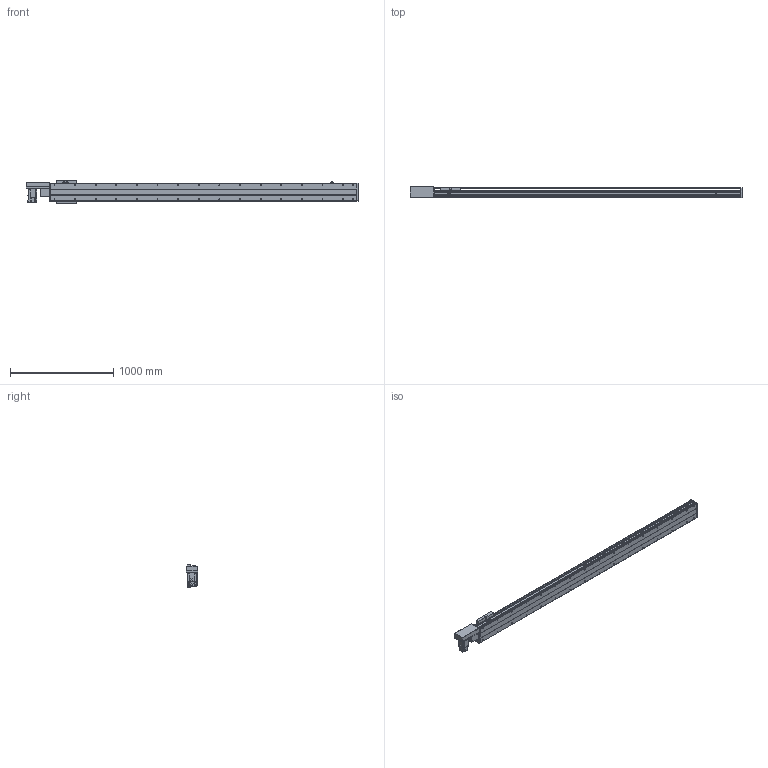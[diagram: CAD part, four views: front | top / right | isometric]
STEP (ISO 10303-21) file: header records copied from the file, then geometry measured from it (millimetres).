
FILE_DESCRIPTION(/* description */ ('STEP AP214'),/* implementation_level */ '2;1');
FILE_NAME(/* name */ 'PBS200-P40-S2600-R-T75-C1-N(0)',/* time_stamp */ '2022-06-11T08:10:47+02:00',/* author */ ('License CC BY-ND 4.0'),/* organization */ ('CADENAS'),/* preprocessor_version */ 'ST-DEVELOPER v18.102',/* originating_system */ 'PARTsolutions',/* authorisation */ ' ');
FILE_SCHEMA (('AUTOMOTIVE_DESIGN {1 0 10303 214 3 1 1}'));
Length unit declared in the file: millimetre
Products named in the file (7): PBS200-P40-S2600-R-T75-C1-N(0); PBS200_sensor; PBS200_plant; PBS200_sliser; T75-p1; PBS200T-R_motors; PBS200-S2600()_body
Assembly tree (8 placements, depth 2):
  PBS200-P40-S2600-R-T75-C1-N(0)
    PBS200_sensor  x3
    PBS200_plant
    PBS200_sliser
    T75-p1
    PBS200T-R_motors
    PBS200-S2600()_body
Bounding box: 3222 x 109 x 221 mm (x, y, z)
Volume: 21228229.1 mm3; surface area: 3394880.5 mm2
Topology: 8 solids, 8 shells, 968 faces, 2454 edges, 1596 vertices
Faces by surface type: plane 590, cylinder 314, cone 64
Full cylindrical faces by diameter (mm): 2.459 x6, 3.242 x4, 4.5 x6, 4.917 x4, 5 x6, 6 x7, 6.6 x8, 6.647 x36, 8 x6, 10 x4, 12 x8, 38 x2, 40 x1, 70 x1
Entity records: 25541 total; most frequent: DIRECTION 4519, CARTESIAN_POINT 4336, ORIENTED_EDGE 4078, EDGE_CURVE 2039, AXIS2_PLACEMENT_3D 1603, VERTEX_POINT 1420, LINE 1313, VECTOR 1313
